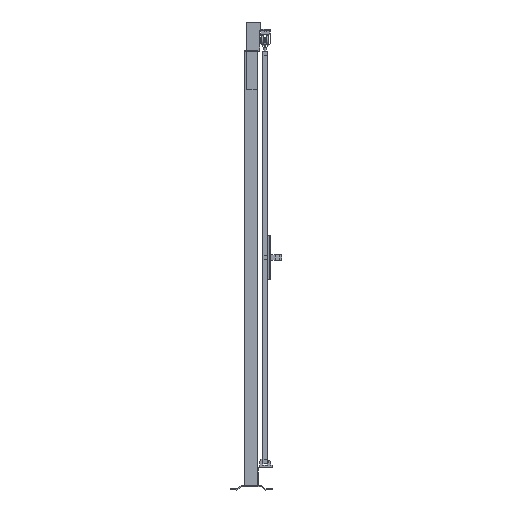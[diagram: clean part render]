
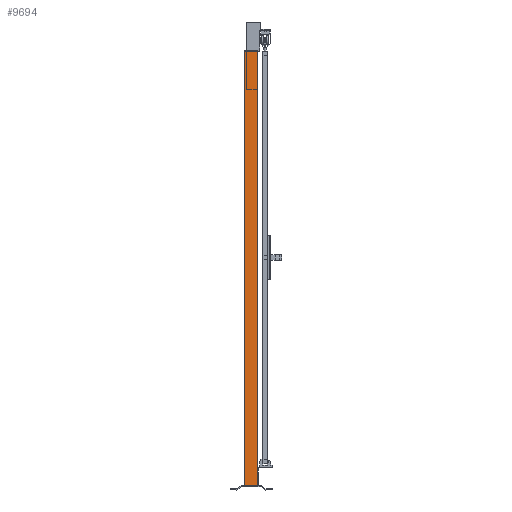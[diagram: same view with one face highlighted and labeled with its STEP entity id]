
A CAD part, left-side view. The second image highlights one B-rep face of the part: STEP entity #9694.
In plain terms, the highlighted planar face has unit normal (-1, 0, 0).
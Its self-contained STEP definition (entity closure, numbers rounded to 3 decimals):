
#944=FACE_OUTER_BOUND('',#1432,.T.);
#1432=EDGE_LOOP('',(#7225,#7226,#7227,#7228));
#2215=LINE('',#14327,#3431);
#2219=LINE('',#14336,#3435);
#2221=LINE('',#14339,#3437);
#2223=LINE('',#14342,#3439);
#3431=VECTOR('',#11453,1.);
#3435=VECTOR('',#11459,1.);
#3437=VECTOR('',#11463,1.);
#3439=VECTOR('',#11467,1.);
#4455=VERTEX_POINT('',#14324);
#4456=VERTEX_POINT('',#14326);
#4459=VERTEX_POINT('',#14333);
#4460=VERTEX_POINT('',#14335);
#5547=EDGE_CURVE('',#4455,#4456,#2215,.T.);
#5551=EDGE_CURVE('',#4459,#4460,#2219,.T.);
#5553=EDGE_CURVE('',#4456,#4459,#2221,.T.);
#5555=EDGE_CURVE('',#4455,#4460,#2223,.T.);
#7225=ORIENTED_EDGE('',*,*,#5555,.T.);
#7226=ORIENTED_EDGE('',*,*,#5551,.F.);
#7227=ORIENTED_EDGE('',*,*,#5553,.F.);
#7228=ORIENTED_EDGE('',*,*,#5547,.F.);
#9248=PLANE('',#10250);
#9694=ADVANCED_FACE('',(#944),#9248,.F.);
#10250=AXIS2_PLACEMENT_3D('',#14341,#11465,#11466);
#11453=DIRECTION('',(0.,-1.,0.));
#11459=DIRECTION('',(0.,1.,0.));
#11463=DIRECTION('',(0.,0.,-1.));
#11465=DIRECTION('center_axis',(1.,0.,0.));
#11466=DIRECTION('ref_axis',(0.,0.,-1.));
#11467=DIRECTION('',(0.,0.,-1.));
#14324=CARTESIAN_POINT('',(-30.,30.,2020.));
#14326=CARTESIAN_POINT('',(-30.,-30.,2020.));
#14327=CARTESIAN_POINT('',(-30.,0.,2020.));
#14333=CARTESIAN_POINT('',(-30.,-30.,20.));
#14335=CARTESIAN_POINT('',(-30.,30.,20.));
#14336=CARTESIAN_POINT('',(-30.,0.,20.));
#14339=CARTESIAN_POINT('',(-30.,-30.,1020.));
#14341=CARTESIAN_POINT('Origin',(-30.,0.,
1020.));
#14342=CARTESIAN_POINT('',(-30.,30.,1020.));
